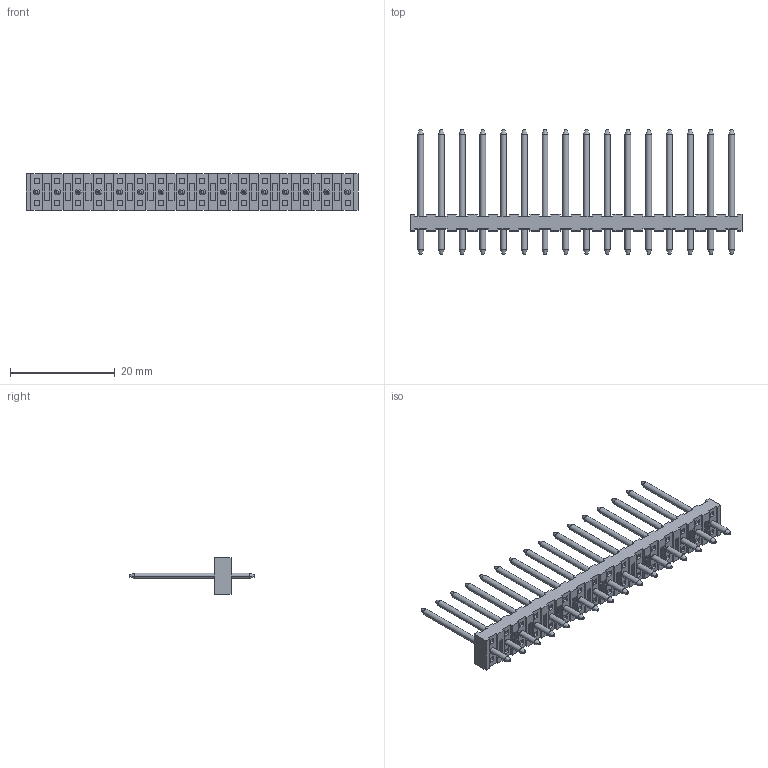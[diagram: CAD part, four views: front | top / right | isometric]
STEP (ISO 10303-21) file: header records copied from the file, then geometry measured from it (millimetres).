
FILE_DESCRIPTION((''),'2;1');
FILE_NAME('026202162','2014-09-05T',('me'),(''),'PRO/ENGINEER BY PARAMETRIC TECHNOLOGY CORPORATION, 2011490','PRO/ENGINEER BY PARAMETRIC TECHNOLOGY CORPORATION, 2011490','');
FILE_SCHEMA(('CONFIG_CONTROL_DESIGN'));
Length unit declared in the file: millimetre
Products named in the file (1): 026202162
Bounding box: 63.4 x 23.8 x 6.9 mm (x, y, z)
Volume: 1445.1 mm3; surface area: 2874.6 mm2
Topology: 1 solids, 1 shells, 604 faces, 1508 edges, 1016 vertices
Faces by surface type: plane 476, cylinder 64, cone 64
Entity records: 17711 total; most frequent: CARTESIAN_POINT 3065, DIRECTION 2942, ORIENTED_EDGE 2920, EDGE_CURVE 1460, VECTOR 1284, LINE 1284, VERTEX_POINT 952, AXIS2_PLACEMENT_3D 829
